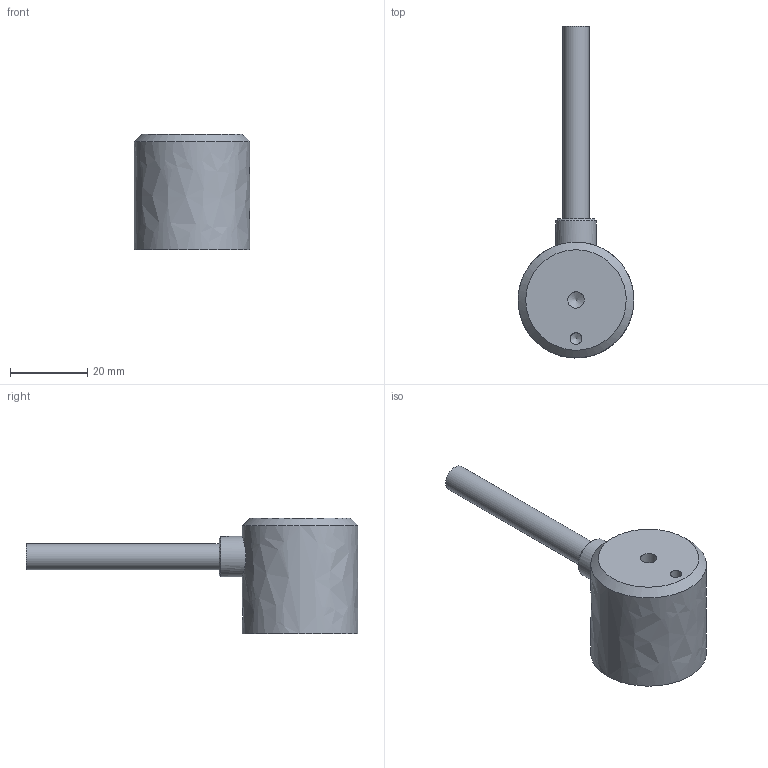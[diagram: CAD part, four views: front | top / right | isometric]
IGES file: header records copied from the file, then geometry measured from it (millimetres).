
Global section: file name: EMH-1-30Dx30H-S-DC24V; native system: unknown; preprocessor: unknown; author: unknown; organization: unknown; date: 20231215.113955; units: millimetre
Bounding box: 30 x 86 x 30 mm (x, y, z)
Volume: 23145.4 mm3; surface area: 5660.6 mm2
Topology: 2 solids, 2 shells, 18 faces, 37 edges, 26 vertices
Faces by surface type: bspline 18
